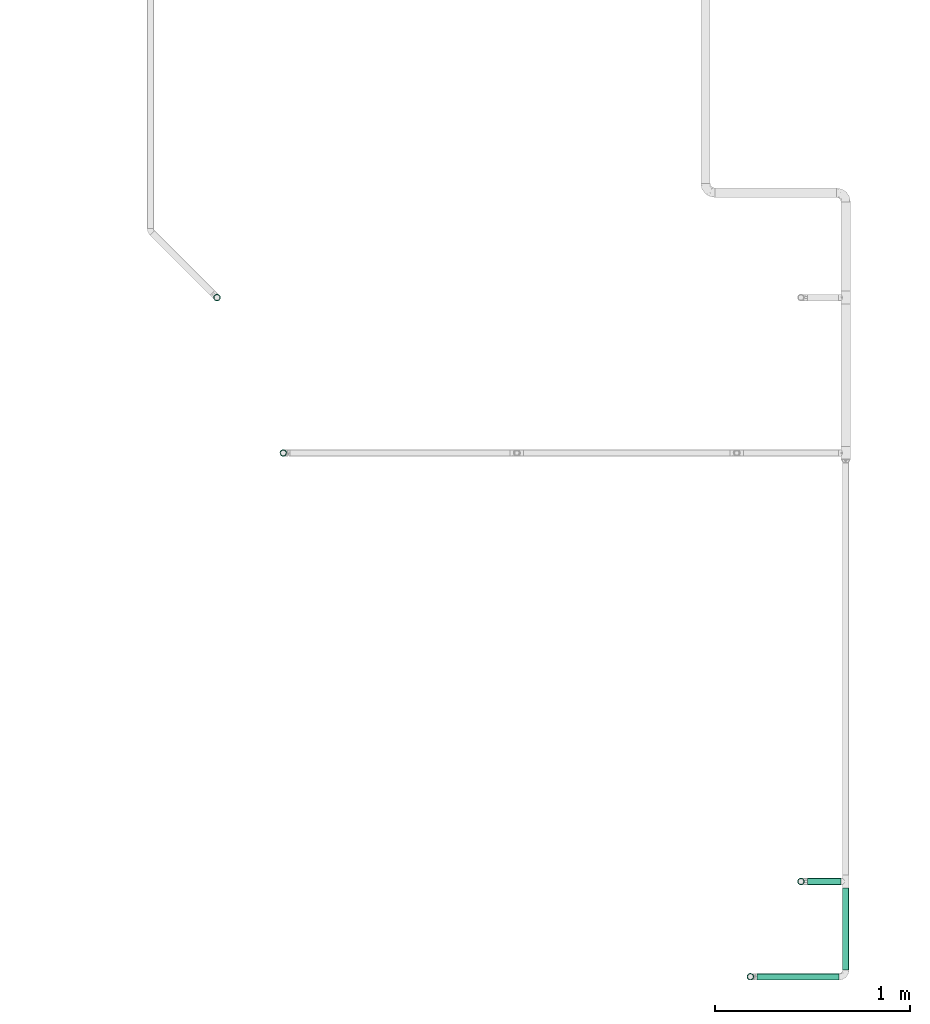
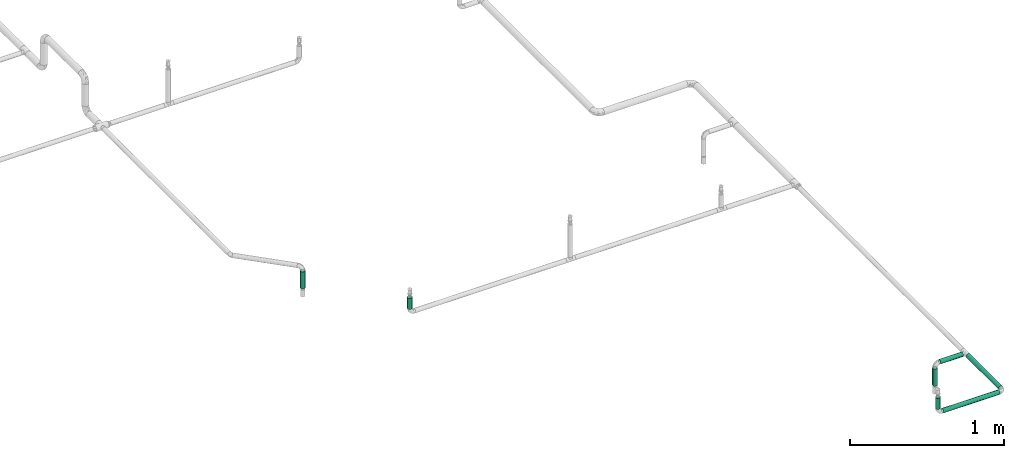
# One storey, part 2 of 157: 7 flow segments.
"""IFC2X3 building model written with IfcOpenShell, lengths in millimetres."""

from ifc_helpers import new_model, entity, si_unit, converted_unit, derived_unit, direction, frame, origin_with_axes, origin_2d_with_axis, place, context, subcontext, project, spatial, hollow_circle, extrude, source, transform, mapped, type_object, element, save


model = new_model("IFC2X3")

# Units and contexts
model_context = context("Model", 3, precision=0.01, world=frame((0.0, 4.29681676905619e-09, 0.0)), true_north=direction((4.01073788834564e-13, 1.0)))
plan_context = context("Plan", 3, precision=0.01, world=frame((0.0, 4.29681676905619e-09, 0.0)), true_north=direction((4.01073788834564e-13, 1.0)))
body_context = subcontext(model_context, "Body", "Model", "MODEL_VIEW")
ifc_project = project(units=[converted_unit("PLANEANGLEUNIT", "DEGREE", entity("IfcPositiveLengthMeasure", 0.0174532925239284), si_unit("PLANEANGLEUNIT", "RADIAN"), dimensions=[0, 0, 0, 0, 0, 0, 0]), si_unit("AREAUNIT", "SQUARE_METRE"), si_unit("LENGTHUNIT", "METRE", prefix="MILLI"), si_unit("MASSUNIT", "GRAM", prefix="KILO"), si_unit("POWERUNIT", "WATT"), si_unit("PRESSUREUNIT", "PASCAL"), si_unit("FORCEUNIT", "NEWTON", prefix="KILO"), si_unit("ELECTRICCURRENTUNIT", "AMPERE"), si_unit("THERMODYNAMICTEMPERATUREUNIT", "DEGREE_CELSIUS"), si_unit("TIMEUNIT", "SECOND"), si_unit("VOLUMEUNIT", "CUBIC_METRE"), derived_unit("LINEARVELOCITYUNIT", [(si_unit("LENGTHUNIT", "METRE"), 1), (si_unit("TIMEUNIT", "SECOND"), -1)]), derived_unit("VOLUMETRICFLOWRATEUNIT", [(si_unit("VOLUMEUNIT", "CUBIC_METRE"), 1), (si_unit("TIMEUNIT", "SECOND"), -1)]), derived_unit("THERMALTRANSMITTANCEUNIT", [(si_unit("POWERUNIT", "WATT"), 1), (si_unit("THERMODYNAMICTEMPERATUREUNIT", "KELVIN"), -1), (si_unit("AREAUNIT", "SQUARE_METRE"), -1)])], contexts=[model_context, plan_context])

# Site, building, storey
site_placement = place(None, frame((0.0, -4.29681676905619e-09, 0.0), z_axis=(0.0, 0.0, 1.0), x_axis=(1.0, 0.0, 0.0)))
site = spatial("IfcSite", under=ifc_project, at=site_placement, CompositionType="ELEMENT")
building_placement = place(site_placement, frame((0.0, 4.29681676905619e-09, 0.0), z_axis=(0.0, 0.0, 1.0), x_axis=(1.0, 0.0, 0.0)))
building = spatial("IfcBuilding", under=site, at=building_placement, Name="mc-building", CompositionType="ELEMENT")
storey_placement = place(building_placement, frame((0.0, 0.0, 204000.0), z_axis=(0.0, 0.0, 1.0), x_axis=(1.0, 0.0, 0.0)))
storey = spatial("IfcBuildingStorey", under=building, at=storey_placement, Name="Nivå D", CompositionType="ELEMENT", Elevation=204000.0)

# Flow segments
pipe_segment_type = type_object("IfcPipeSegmentType", Name="Stålrør normaltykke", PredefinedType="RIGIDSEGMENT")
shared_shape_1 = source(origin_with_axes(), body_context, "Body", "SweptSolid", [
    extrude(hollow_circle(Radius=16.9, WallThickness=2.0, at=origin_2d_with_axis()), frame((0.0, 0.0, 0.0), z_axis=(1.0, 0.0, 0.0), x_axis=(0.0, 1.0, 0.0)), (0.0, 0.0, 1.0), 171.2),
])
flow_segment_1_placement = place(storey_placement, frame((531133.8, 402200.0, 2880.0), z_axis=(0.0, 0.0, 1.0), x_axis=(1.0, 0.0, 0.0)))
element("IfcFlowSegment", 1, at=flow_segment_1_placement, inside=storey, type_object=pipe_segment_type, Name="Stålrør normaltykke", context=body_context, shape_type="MappedRepresentation", body=[
    mapped(shared_shape_1, transform((0.0, 0.0, 0.0), scale=1.0)),
])
shared_shape_2 = source(origin_with_axes(), body_context, "Body", "SweptSolid", [
    extrude(hollow_circle(Radius=16.9, WallThickness=2.0, at=origin_2d_with_axis()), frame((0.0, 0.0, 0.0), z_axis=(1.0, 0.0, 0.0), x_axis=(0.0, 1.0, 0.0)), (0.0, 0.0, 1.0), 88.3),
])
for number, where, z_axis, x_axis in (
    (2, (530840.35, 401710.8343, 2913.79999999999), (0.0, 1.0, 0.0), (0.0, 0.0, 1.0)),
    (3, (528440.35, 404401.65, 2913.79999999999), (0.0, -1.0, 0.0), (0.0, 0.0, 1.0)),
):
    element("IfcFlowSegment", number, at=place(storey_placement, frame(where, z_axis=z_axis, x_axis=x_axis)), inside=storey, type_object=pipe_segment_type, Name="Stålrør normaltykke", context=body_context, shape_type="MappedRepresentation", body=[
        mapped(shared_shape_2, transform((0.0, 0.0, 0.0), scale=1.0)),
    ])
shared_shape_3 = source(origin_with_axes(), body_context, "Body", "SweptSolid", [
    extrude(hollow_circle(Radius=16.9, WallThickness=2.0, at=origin_2d_with_axis()), frame((0.0, 0.0, 0.0), z_axis=(1.0, 0.0, 0.0), x_axis=(0.0, 1.0, 0.0)), (0.0, 0.0, 1.0), 422.6),
])
flow_segment_2_placement = place(storey_placement, frame((530874.15, 401710.8343, 2880.0), z_axis=(0.0, 0.0, 1.0), x_axis=(1.0, 0.0, 0.0)))
element("IfcFlowSegment", 4, at=flow_segment_2_placement, inside=storey, type_object=pipe_segment_type, Name="Stålrør normaltykke", context=body_context, shape_type="MappedRepresentation", body=[
    mapped(shared_shape_3, transform((0.0, 0.0, 0.0), scale=1.0)),
])
shared_shape_4 = source(origin_with_axes(), body_context, "Body", "SweptSolid", [
    extrude(hollow_circle(Radius=16.9, WallThickness=2.0, at=origin_2d_with_axis()), frame((0.0, 0.0, 0.0), z_axis=(1.0, 0.0, 0.0), x_axis=(0.0, 1.0, 0.0)), (0.0, 0.0, 1.0), 136.8),
])
for number, where, z_axis, x_axis in (
    (5, (531100.0, 402200.0, 2846.20000000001), (-1.0, 0.0, 0.0), (0.0, 0.0, -1.0)),
    (6, (528100.0, 405200.0, 2709.35200000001), (1.0, 0.0, 0.0), (0.0, 0.0, 1.0)),
):
    element("IfcFlowSegment", number, at=place(storey_placement, frame(where, z_axis=z_axis, x_axis=x_axis)), inside=storey, type_object=pipe_segment_type, Name="Stålrør normaltykke", context=body_context, shape_type="MappedRepresentation", body=[
        mapped(shared_shape_4, transform((0.0, 0.0, 0.0), scale=1.0)),
    ])
shared_shape_5 = source(origin_with_axes(), body_context, "Body", "SweptSolid", [
    extrude(hollow_circle(Radius=16.9, WallThickness=2.0, at=origin_2d_with_axis()), frame((0.0, 0.0, 0.0), z_axis=(1.0, 0.0, 0.0), x_axis=(0.0, 1.0, 0.0)), (0.0, 0.0, 1.0), 421.6),
])
flow_segment_3_placement = place(storey_placement, frame((531330.55939, 402166.2, 2880.0), z_axis=(0.0, 0.0, 1.0), x_axis=(0.0, -1.0, 0.0)))
element("IfcFlowSegment", 7, at=flow_segment_3_placement, inside=storey, type_object=pipe_segment_type, Name="Stålrør normaltykke", context=body_context, shape_type="MappedRepresentation", body=[
    mapped(shared_shape_5, transform((0.0, 0.0, 0.0), scale=1.0)),
])

save(model, "model.ifc")
